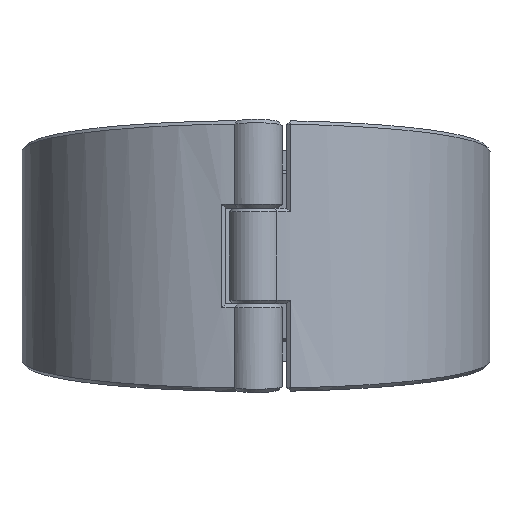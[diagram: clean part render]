
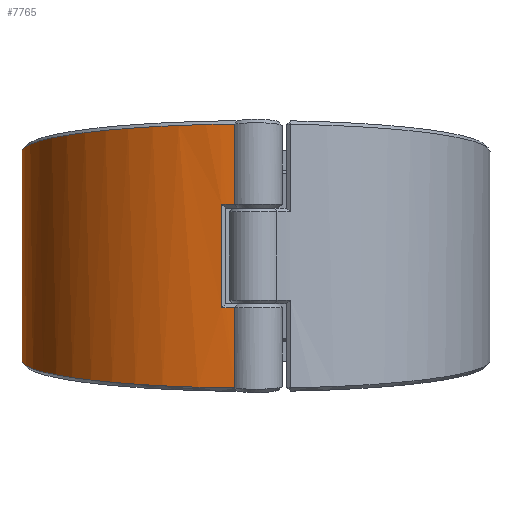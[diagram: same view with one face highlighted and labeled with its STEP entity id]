
A CAD part, front view. The second image highlights one B-rep face of the part: STEP entity #7765.
In plain terms, the highlighted cylindrical face has radius 123 mm (diameter 246 mm), a partial arc.
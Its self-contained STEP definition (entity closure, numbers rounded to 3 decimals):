
#263=CYLINDRICAL_SURFACE('',#8320,123.);
#584=FACE_OUTER_BOUND('',#1104,.T.);
#1104=EDGE_LOOP('',(#5280,#5281,#5282,#5283,#5284,#5285,#5286,#5287,#5288,
#5289,#5290,#5291));
#1644=B_SPLINE_CURVE_WITH_KNOTS('',3,(#11843,#11844,#11845,#11846),
 .UNSPECIFIED.,.F.,.F.,(4,4),(-0.001,0.),.UNSPECIFIED.);
#1645=B_SPLINE_CURVE_WITH_KNOTS('',3,(#11848,#11849,#11850,#11851),
 .UNSPECIFIED.,.F.,.F.,(4,4),(-3.052,-3.052),
 .UNSPECIFIED.);
#1646=B_SPLINE_CURVE_WITH_KNOTS('',3,(#11853,#11854,#11855,#11856,#11857,
#11858,#11859,#11860,#11861,#11862),.UNSPECIFIED.,.F.,.F.,(4,1,1,1,1,1,
1,4),(0.317,0.663,1.062,1.461,
1.861,2.26,2.66,3.052),
 .UNSPECIFIED.);
#1647=B_SPLINE_CURVE_WITH_KNOTS('',3,(#11866,#11867,#11868,#11869,#11870,
#11871,#11872,#11873,#11874,#11875),.UNSPECIFIED.,.F.,.F.,(4,1,1,1,1,1,
1,4),(-3.052,-2.66,-2.26,-1.861,
-1.461,-1.062,-0.663,-0.317),
 .UNSPECIFIED.);
#1648=B_SPLINE_CURVE_WITH_KNOTS('',3,(#11877,#11878,#11879,#11880),
 .UNSPECIFIED.,.F.,.F.,(4,4),(3.052,3.052),
 .UNSPECIFIED.);
#1649=B_SPLINE_CURVE_WITH_KNOTS('',3,(#11882,#11883,#11884,#11885),
 .UNSPECIFIED.,.F.,.F.,(4,4),(-0.354,-0.353),
 .UNSPECIFIED.);
#1921=LINE('',#11777,#2291);
#1927=LINE('',#11841,#2297);
#1928=LINE('',#11864,#2298);
#1929=LINE('',#11886,#2299);
#2291=VECTOR('',#9336,10.);
#2297=VECTOR('',#9382,10.);
#2298=VECTOR('',#9383,10.);
#2299=VECTOR('',#9384,10.);
#2666=CIRCLE('',#8310,123.);
#2669=CIRCLE('',#8315,123.);
#3229=VERTEX_POINT('',#11771);
#3230=VERTEX_POINT('',#11776);
#3236=VERTEX_POINT('',#11797);
#3239=VERTEX_POINT('',#11818);
#3243=VERTEX_POINT('',#11840);
#3244=VERTEX_POINT('',#11842);
#3245=VERTEX_POINT('',#11847);
#3246=VERTEX_POINT('',#11852);
#3247=VERTEX_POINT('',#11863);
#3248=VERTEX_POINT('',#11865);
#3249=VERTEX_POINT('',#11876);
#3250=VERTEX_POINT('',#11881);
#3984=EDGE_CURVE('',#3229,#3230,#1921,.T.);
#3997=EDGE_CURVE('',#3236,#3229,#2666,.T.);
#4002=EDGE_CURVE('',#3230,#3239,#2669,.T.);
#4008=EDGE_CURVE('',#3243,#3236,#1927,.T.);
#4009=EDGE_CURVE('',#3244,#3243,#1644,.T.);
#4010=EDGE_CURVE('',#3244,#3245,#1645,.T.);
#4011=EDGE_CURVE('',#3246,#3245,#1646,.T.);
#4012=EDGE_CURVE('',#3247,#3246,#1928,.T.);
#4013=EDGE_CURVE('',#3248,#3247,#1647,.T.);
#4014=EDGE_CURVE('',#3248,#3249,#1648,.T.);
#4015=EDGE_CURVE('',#3250,#3249,#1649,.T.);
#4016=EDGE_CURVE('',#3239,#3250,#1929,.T.);
#5280=ORIENTED_EDGE('',*,*,#4002,.F.);
#5281=ORIENTED_EDGE('',*,*,#3984,.F.);
#5282=ORIENTED_EDGE('',*,*,#3997,.F.);
#5283=ORIENTED_EDGE('',*,*,#4008,.F.);
#5284=ORIENTED_EDGE('',*,*,#4009,.F.);
#5285=ORIENTED_EDGE('',*,*,#4010,.T.);
#5286=ORIENTED_EDGE('',*,*,#4011,.F.);
#5287=ORIENTED_EDGE('',*,*,#4012,.F.);
#5288=ORIENTED_EDGE('',*,*,#4013,.F.);
#5289=ORIENTED_EDGE('',*,*,#4014,.T.);
#5290=ORIENTED_EDGE('',*,*,#4015,.F.);
#5291=ORIENTED_EDGE('',*,*,#4016,.F.);
#7765=ADVANCED_FACE('',(#584),#263,.T.);
#8310=AXIS2_PLACEMENT_3D('',#11813,#9358,#9359);
#8315=AXIS2_PLACEMENT_3D('',#11827,#9368,#9369);
#8320=AXIS2_PLACEMENT_3D('',#11839,#9380,#9381);
#9336=DIRECTION('',(0.,0.,-1.));
#9358=DIRECTION('center_axis',(0.,0.,-1.));
#9359=DIRECTION('ref_axis',(0.312,-0.95,0.));
#9368=DIRECTION('center_axis',(0.,0.,1.));
#9369=DIRECTION('ref_axis',(0.312,-0.95,0.));
#9380=DIRECTION('center_axis',(0.,0.,1.));
#9381=DIRECTION('ref_axis',(-0.312,0.95,0.));
#9382=DIRECTION('',(0.,0.,-1.));
#9383=DIRECTION('',(0.,0.,1.));
#9384=DIRECTION('',(0.,0.,-1.));
#11771=CARTESIAN_POINT('',(-18.081,-121.664,27.2));
#11776=CARTESIAN_POINT('',(-18.081,-121.664,-27.2));
#11777=CARTESIAN_POINT('',(-18.081,-121.664,0.));
#11797=CARTESIAN_POINT('',(-11.04,-122.504,27.2));
#11813=CARTESIAN_POINT('Origin',(0.,0.,27.2));
#11818=CARTESIAN_POINT('',(-11.04,-122.504,-27.2));
#11827=CARTESIAN_POINT('Origin',(0.,0.,-27.2));
#11839=CARTESIAN_POINT('Origin',(0.,0.,0.));
#11840=CARTESIAN_POINT('',(-11.04,-122.504,69.354));
#11841=CARTESIAN_POINT('',(-11.04,-122.504,0.));
#11842=CARTESIAN_POINT('',(-11.029,-122.505,69.363));
#11843=CARTESIAN_POINT('Ctrl Pts',(-11.029,-122.505,
69.363));
#11844=CARTESIAN_POINT('Ctrl Pts',(-11.033,-122.504,
69.36));
#11845=CARTESIAN_POINT('Ctrl Pts',(-11.037,-122.504,
69.357));
#11846=CARTESIAN_POINT('Ctrl Pts',(-11.04,-122.504,69.354));
#11847=CARTESIAN_POINT('',(-11.04,-122.504,69.363));
#11848=CARTESIAN_POINT('Ctrl Pts',(-11.029,-122.505,
69.363));
#11849=CARTESIAN_POINT('Ctrl Pts',(-11.033,-122.504,
69.363));
#11850=CARTESIAN_POINT('Ctrl Pts',(-11.037,-122.504,
69.363));
#11851=CARTESIAN_POINT('Ctrl Pts',(-11.04,-122.503,
69.363));
#11852=CARTESIAN_POINT('',(-38.407,116.85,41.199));
#11853=CARTESIAN_POINT('Ctrl Pts',(-38.406,116.848,41.199));
#11854=CARTESIAN_POINT('Ctrl Pts',(-51.889,112.41,41.72));
#11855=CARTESIAN_POINT('Ctrl Pts',(-79.291,97.79,43.437));
#11856=CARTESIAN_POINT('Ctrl Pts',(-110.437,61.349,47.719));
#11857=CARTESIAN_POINT('Ctrl Pts',(-125.586,13.54,53.341));
#11858=CARTESIAN_POINT('Ctrl Pts',(-120.976,-36.362,
59.214));
#11859=CARTESIAN_POINT('Ctrl Pts',(-97.326,-80.503,
64.412));
#11860=CARTESIAN_POINT('Ctrl Pts',(-58.677,-111.784,
68.099));
#11861=CARTESIAN_POINT('Ctrl Pts',(-27.006,-121.063,69.193));
#11862=CARTESIAN_POINT('Ctrl Pts',(-11.04,-122.503,69.363));
#11863=CARTESIAN_POINT('',(-38.407,116.85,-41.199));
#11864=CARTESIAN_POINT('',(-38.407,116.85,0.));
#11865=CARTESIAN_POINT('',(-11.04,-122.504,-69.363));
#11866=CARTESIAN_POINT('Ctrl Pts',(-11.04,-122.503,
-69.363));
#11867=CARTESIAN_POINT('Ctrl Pts',(-27.006,-121.063,
-69.193));
#11868=CARTESIAN_POINT('Ctrl Pts',(-58.671,-111.778,-68.098));
#11869=CARTESIAN_POINT('Ctrl Pts',(-97.336,-80.51,
-64.413));
#11870=CARTESIAN_POINT('Ctrl Pts',(-120.963,-36.359,
-59.213));
#11871=CARTESIAN_POINT('Ctrl Pts',(-125.6,13.54,-53.341));
#11872=CARTESIAN_POINT('Ctrl Pts',(-110.424,61.344,-47.72));
#11873=CARTESIAN_POINT('Ctrl Pts',(-79.298,97.794,-43.437));
#11874=CARTESIAN_POINT('Ctrl Pts',(-51.89,112.41,-41.72));
#11875=CARTESIAN_POINT('Ctrl Pts',(-38.406,116.848,-41.199));
#11876=CARTESIAN_POINT('',(-11.029,-122.505,-69.363));
#11877=CARTESIAN_POINT('Ctrl Pts',(-11.04,-122.503,
-69.363));
#11878=CARTESIAN_POINT('Ctrl Pts',(-11.037,-122.504,-69.363));
#11879=CARTESIAN_POINT('Ctrl Pts',(-11.033,-122.504,
-69.363));
#11880=CARTESIAN_POINT('Ctrl Pts',(-11.029,-122.505,
-69.363));
#11881=CARTESIAN_POINT('',(-11.04,-122.504,-69.354));
#11882=CARTESIAN_POINT('Ctrl Pts',(-11.04,-122.503,
-69.354));
#11883=CARTESIAN_POINT('Ctrl Pts',(-11.036,-122.503,
-69.357));
#11884=CARTESIAN_POINT('Ctrl Pts',(-11.032,-122.504,
-69.36));
#11885=CARTESIAN_POINT('Ctrl Pts',(-11.028,-122.504,
-69.363));
#11886=CARTESIAN_POINT('',(-11.04,-122.504,0.));
